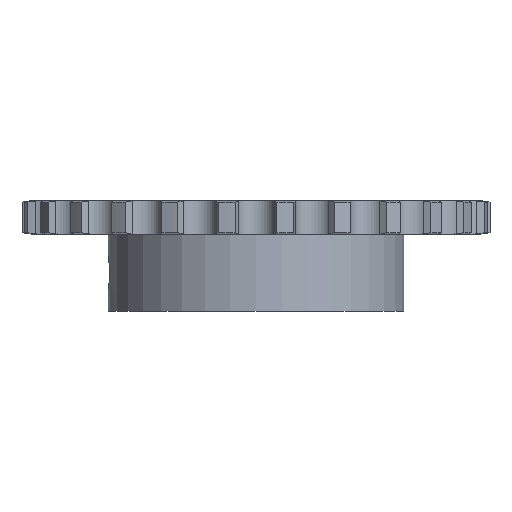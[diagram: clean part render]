
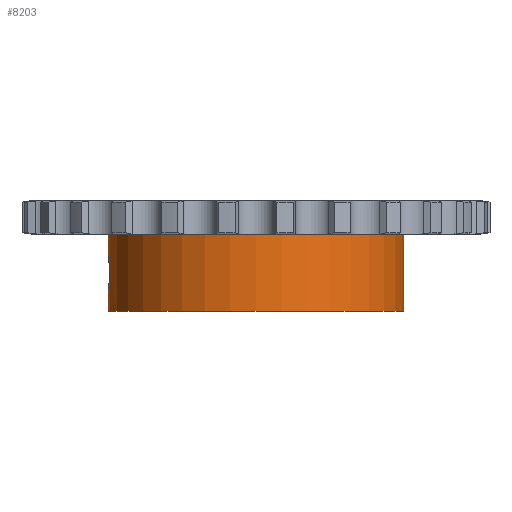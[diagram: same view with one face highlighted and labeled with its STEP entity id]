
A CAD part, front view. The second image highlights one B-rep face of the part: STEP entity #8203.
In plain terms, the highlighted cylindrical face has radius 40 mm (diameter 80 mm), a partial arc.
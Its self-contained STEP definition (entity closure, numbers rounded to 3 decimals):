
#1375=CARTESIAN_POINT('',(0.,0.,-4.55));
#1376=DIRECTION('',(0.,0.,1.));
#1377=DIRECTION('',(-1.,0.,0.));
#1378=AXIS2_PLACEMENT_3D('',#1375,#1376,#1377);
#4166=CARTESIAN_POINT('',(-40.,0.,
-10.));
#4190=DIRECTION('',(0.,0.,1.));
#4191=VECTOR('',#4190,20.9);
#4192=CARTESIAN_POINT('',(40.,0.,-25.45));
#4193=LINE('',#4192,#4191);
#4317=CARTESIAN_POINT('',(-40.,0.,
-10.));
#4318=CARTESIAN_POINT('',(-40.,-0.201,
-10.));
#4319=CARTESIAN_POINT('',(-39.997,-0.631,
-10.025));
#4320=CARTESIAN_POINT('',(-39.981,-1.287,
-10.146));
#4321=CARTESIAN_POINT('',(-39.954,-1.947,
-10.363));
#4322=CARTESIAN_POINT('',(-39.919,-2.57,
-10.665));
#4323=CARTESIAN_POINT('',(-39.878,-3.144,
-11.046));
#4324=CARTESIAN_POINT('',(-39.833,-3.658,
-11.497));
#4325=CARTESIAN_POINT('',(-39.79,-4.104,
-12.011));
#4326=CARTESIAN_POINT('',(-39.749,-4.476,
-12.578));
#4327=CARTESIAN_POINT('',(-39.715,-4.766,
-13.19));
#4328=CARTESIAN_POINT('',(-39.69,-4.969,
-13.83));
#4329=CARTESIAN_POINT('',(-39.677,-5.075,
-14.438));
#4330=CARTESIAN_POINT('',(-39.674,-5.096,
-14.828));
#4331=CARTESIAN_POINT('',(-39.674,-5.096,
-15.));
#4336=DIRECTION('',(0.,0.,1.));
#4337=VECTOR('',#4336,5.45);
#4338=CARTESIAN_POINT('',(-40.,0.,
-10.));
#4339=LINE('',#4338,#4337);
#4343=DIRECTION('',(0.,0.,1.));
#4344=VECTOR('',#4343,5.45);
#4345=CARTESIAN_POINT('',(-40.,0.,-25.45));
#4346=LINE('',#4345,#4344);
#4350=CARTESIAN_POINT('',(-39.674,-5.096,
-15.));
#4351=CARTESIAN_POINT('',(-39.674,-5.096,
-15.183));
#4352=CARTESIAN_POINT('',(-39.677,-5.073,
-15.584));
#4353=CARTESIAN_POINT('',(-39.691,-4.962,
-16.201));
#4354=CARTESIAN_POINT('',(-39.717,-4.756,
-16.837));
#4355=CARTESIAN_POINT('',(-39.751,-4.463,
-17.444));
#4356=CARTESIAN_POINT('',(-39.791,-4.09,
-18.007));
#4357=CARTESIAN_POINT('',(-39.835,-3.644,
-18.517));
#4358=CARTESIAN_POINT('',(-39.879,-3.131,
-18.964));
#4359=CARTESIAN_POINT('',(-39.92,-2.559,
-19.341));
#4360=CARTESIAN_POINT('',(-39.955,-1.938,
-19.641));
#4361=CARTESIAN_POINT('',(-39.981,-1.281,
-19.855));
#4362=CARTESIAN_POINT('',(-39.997,-0.628,
-19.975));
#4363=CARTESIAN_POINT('',(-40.,-0.2,
-20.));
#4364=CARTESIAN_POINT('',(-40.,0.,
-20.));
#4377=CARTESIAN_POINT('',(0.,0.,-25.45));
#4378=DIRECTION('',(0.,0.,-1.));
#4379=DIRECTION('',(1.,0.,0.));
#4380=AXIS2_PLACEMENT_3D('',#4377,#4378,#4379);
#4810=CARTESIAN_POINT('',(-40.,0.,-25.45));
#4811=CARTESIAN_POINT('',(40.,0.,-25.45));
#4812=VERTEX_POINT('',#4810);
#4813=VERTEX_POINT('',#4811);
#4814=CARTESIAN_POINT('',(40.,0.,-4.55));
#4815=VERTEX_POINT('',#4814);
#4816=CARTESIAN_POINT('',(-40.,0.,-4.55));
#4817=VERTEX_POINT('',#4816);
#5097=VERTEX_POINT('',#4166);
#5100=VERTEX_POINT('',#4331);
#5102=VERTEX_POINT('',#4364);
#8187=CARTESIAN_POINT('',(0.,0.,4.55));
#8188=DIRECTION('',(0.,0.,1.));
#8189=DIRECTION('',(1.,0.,0.));
#8190=AXIS2_PLACEMENT_3D('',#8187,#8188,#8189);
#8191=CYLINDRICAL_SURFACE('',#8190,40.);
#8192=ORIENTED_EDGE('',*,*,#8177,.F.);
#8193=ORIENTED_EDGE('',*,*,#7740,.T.);
#8194=ORIENTED_EDGE('',*,*,#6529,.T.);
#8195=ORIENTED_EDGE('',*,*,#7737,.F.);
#8197=ORIENTED_EDGE('',*,*,#8196,.T.);
#8198=ORIENTED_EDGE('',*,*,#7733,.T.);
#8200=ORIENTED_EDGE('',*,*,#8199,.F.);
#8201=EDGE_LOOP('',(#8192,#8193,#8194,#8195,#8197,#8198,#8200));
#8202=FACE_OUTER_BOUND('',#8201,.F.);
#8203=ADVANCED_FACE('',(#8202),#8191,.T.);
#1379=CIRCLE('',#1378,40.);
#4332=B_SPLINE_CURVE_WITH_KNOTS('',3,(#4317,#4318,#4319,#4320,#4321,#4322,#4323,
#4324,#4325,#4326,#4327,#4328,#4329,#4330,#4331),.UNSPECIFIED.,.F.,.F.,(4,1,1,1,
1,1,1,1,1,1,1,1,4),(0.,0.075,0.161,0.247,
0.332,0.418,0.504,0.589,
0.675,0.76,0.846,0.932,1.),
.UNSPECIFIED.);
#4365=B_SPLINE_CURVE_WITH_KNOTS('',3,(#4350,#4351,#4352,#4353,#4354,#4355,#4356,
#4357,#4358,#4359,#4360,#4361,#4362,#4363,#4364),.UNSPECIFIED.,.F.,.F.,(4,1,1,1,
1,1,1,1,1,1,1,1,4),(0.,0.073,0.158,0.243,
0.329,0.414,0.499,0.584,
0.669,0.755,0.84,0.925,1.),
.UNSPECIFIED.);
#4381=CIRCLE('',#4380,40.);
#6529=EDGE_CURVE('',#4817,#4815,#1379,.T.);
#7733=EDGE_CURVE('',#4812,#5102,#4346,.T.);
#7737=EDGE_CURVE('',#4813,#4815,#4193,.T.);
#7740=EDGE_CURVE('',#5097,#4817,#4339,.T.);
#8177=EDGE_CURVE('',#5097,#5100,#4332,.T.);
#8196=EDGE_CURVE('',#4813,#4812,#4381,.T.);
#8199=EDGE_CURVE('',#5100,#5102,#4365,.T.);
